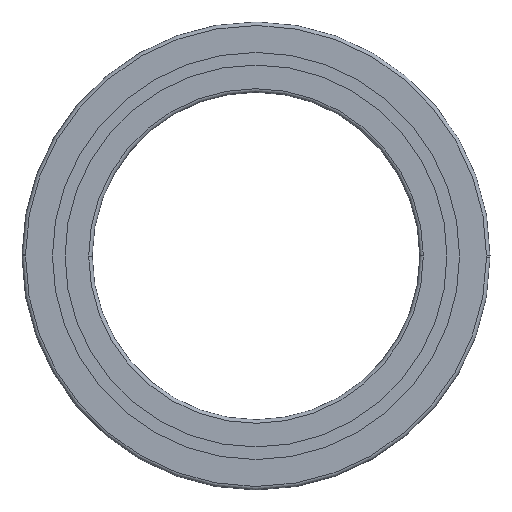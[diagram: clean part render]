
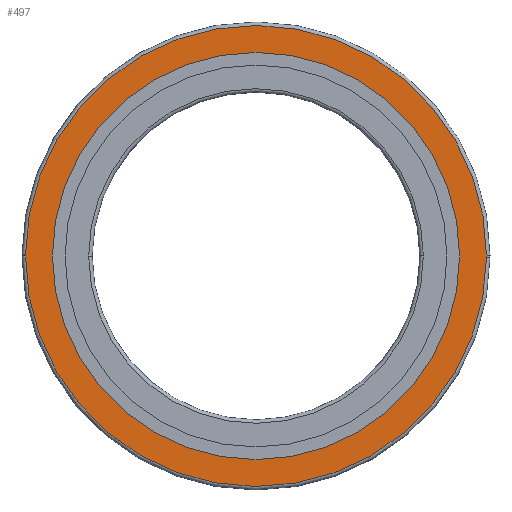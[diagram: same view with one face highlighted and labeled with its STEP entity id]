
A CAD part, front view. The second image highlights one B-rep face of the part: STEP entity #497.
In plain terms, the highlighted planar face has unit normal (0, -1, 0).
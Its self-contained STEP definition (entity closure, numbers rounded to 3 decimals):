
#349=EDGE_CURVE('',#709,#591,#892,.T.);
#377=EDGE_CURVE('',#667,#431,#921,.T.);
#431=VERTEX_POINT('',#977);
#445=EDGE_CURVE('',#431,#451,#992,.T.);
#451=VERTEX_POINT('',#998);
#497=ADVANCED_FACE('',(#1048,#1049),#1050,.F.);
#517=EDGE_CURVE('',#593,#667,#1072,.T.);
#569=EDGE_CURVE('',#591,#709,#1133,.T.);
#591=VERTEX_POINT('',#1160);
#593=VERTEX_POINT('',#1162);
#635=EDGE_CURVE('',#451,#593,#1211,.T.);
#667=VERTEX_POINT('',#1248);
#709=VERTEX_POINT('',#1294);
#892=CIRCLE('',#1502,87.0);
#921=CIRCLE('',#1536,98.5);
#977=CARTESIAN_POINT('',(-98.5,0.0,0.));
#992=CIRCLE('',#1624,98.5);
#998=CARTESIAN_POINT('',(98.498,0.0,-0.611));
#1048=FACE_OUTER_BOUND('',#1691,.T.);
#1049=FACE_BOUND('',#1692,.T.);
#1050=PLANE('',#1693);
#1072=CIRCLE('',#1726,98.5);
#1133=CIRCLE('',#1805,87.0);
#1160=CARTESIAN_POINT('',(-87.0,0.0,0.0));
#1162=CARTESIAN_POINT('',(98.5,0.0,0.0));
#1211=CIRCLE('',#1894,98.5);
#1248=CARTESIAN_POINT('',(-98.498,0.0,0.611));
#1294=CARTESIAN_POINT('',(87.0,0.0,0.));
#1502=AXIS2_PLACEMENT_3D('',#2233,#2234,#2235);
#1536=AXIS2_PLACEMENT_3D('',#2255,#2256,#2257);
#1624=AXIS2_PLACEMENT_3D('',#2317,#2318,#2319);
#1691=EDGE_LOOP('',(#2383,#2384,#2385,#2386));
#1692=EDGE_LOOP('',(#2387,#2388));
#1693=AXIS2_PLACEMENT_3D('',#2389,#2390,#2391);
#1726=AXIS2_PLACEMENT_3D('',#2423,#2424,#2425);
#1805=AXIS2_PLACEMENT_3D('',#2535,#2536,#2537);
#1894=AXIS2_PLACEMENT_3D('',#2649,#2650,#2651);
#2233=CARTESIAN_POINT('',(0.0,0.0,0.0));
#2234=DIRECTION('',(0.0,-1.0,0.0));
#2235=DIRECTION('',(1.0,0.0,0.0));
#2255=CARTESIAN_POINT('',(0.0,0.0,0.0));
#2256=DIRECTION('',(0.0,-1.0,0.0));
#2257=DIRECTION('',(1.0,0.0,0.0));
#2317=CARTESIAN_POINT('',(0.0,0.0,0.0));
#2318=DIRECTION('',(0.0,-1.0,0.0));
#2319=DIRECTION('',(-1.0,0.0,0.0));
#2383=ORIENTED_EDGE('',*,*,#445,.T.);
#2384=ORIENTED_EDGE('',*,*,#635,.T.);
#2385=ORIENTED_EDGE('',*,*,#517,.T.);
#2386=ORIENTED_EDGE('',*,*,#377,.T.);
#2387=ORIENTED_EDGE('',*,*,#569,.F.);
#2388=ORIENTED_EDGE('',*,*,#349,.F.);
#2389=CARTESIAN_POINT('',(0.0,0.0,0.0));
#2390=DIRECTION('',(0.0,1.0,0.0));
#2391=DIRECTION('',(1.0,0.0,-0.0));
#2423=CARTESIAN_POINT('',(0.0,0.0,0.0));
#2424=DIRECTION('',(0.0,-1.0,0.0));
#2425=DIRECTION('',(1.0,0.0,0.0));
#2535=CARTESIAN_POINT('',(0.0,0.0,0.0));
#2536=DIRECTION('',(0.0,-1.0,0.0));
#2537=DIRECTION('',(-1.0,0.0,0.0));
#2649=CARTESIAN_POINT('',(0.0,0.0,0.0));
#2650=DIRECTION('',(0.0,-1.0,0.0));
#2651=DIRECTION('',(-1.0,0.0,0.0));
